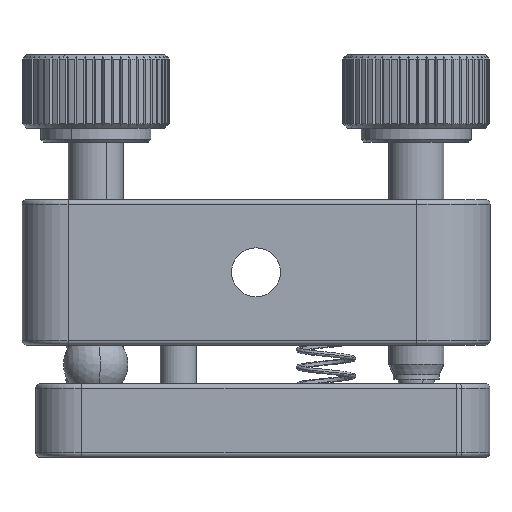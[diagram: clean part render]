
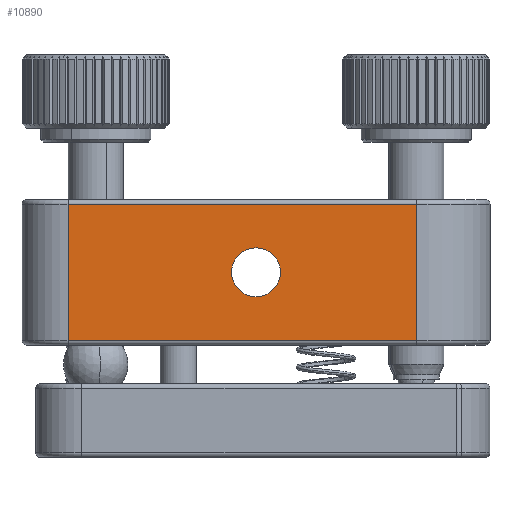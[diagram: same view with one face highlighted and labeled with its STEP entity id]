
A CAD part, front view. The second image highlights one B-rep face of the part: STEP entity #10890.
In plain terms, the highlighted planar face has unit normal (0, -1, 0).
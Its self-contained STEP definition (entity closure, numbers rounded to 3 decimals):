
#459 = LINE ( 'NONE', #11049, #16181 ) ;
#684 = DIRECTION ( 'NONE',  ( 0., -1., 0. ) ) ;
#821 = VECTOR ( 'NONE', #5038, 1000. ) ;
#1578 = CARTESIAN_POINT ( 'NONE',  ( 36.252, 27.866, -43.489 ) ) ;
#2243 = AXIS2_PLACEMENT_3D ( 'NONE', #24503, #684, #11282 ) ;
#3144 = VERTEX_POINT ( 'NONE', #32669 ) ;
#5038 = DIRECTION ( 'NONE',  ( -1., 0., 0. ) ) ;
#5469 = LINE ( 'NONE', #16045, #28557 ) ;
#5758 = CARTESIAN_POINT ( 'NONE',  ( 36.252, 27.866, -58.289 ) ) ;
#6248 = CARTESIAN_POINT ( 'NONE',  ( 74.052, 27.866, -58.289 ) ) ;
#6724 = CARTESIAN_POINT ( 'NONE',  ( 74.052, 27.866, -43.489 ) ) ;
#6799 = DIRECTION ( 'NONE',  ( 0., 1., 0. ) ) ;
#7294 = VERTEX_POINT ( 'NONE', #5758 ) ;
#8831 = DIRECTION ( 'NONE',  ( 0., -1., 0. ) ) ;
#9339 = VECTOR ( 'NONE', #16850, 1000. ) ;
#9399 = FACE_OUTER_BOUND ( 'NONE', #20662, .T. ) ;
#10242 = LINE ( 'NONE', #28859, #821 ) ;
#10347 = EDGE_CURVE ( 'NONE', #17216, #3144, #459, .T. ) ;
#10354 = CARTESIAN_POINT ( 'NONE',  ( 54.002, 27.866, -50.889 ) ) ;
#10890 = ADVANCED_FACE ( 'NONE', ( #33235, #9399 ), #20011, .F. ) ;
#10909 = VERTEX_POINT ( 'NONE', #1578 ) ;
#11049 = CARTESIAN_POINT ( 'NONE',  ( 74.052, 27.866, -42.989 ) ) ;
#11282 = DIRECTION ( 'NONE',  ( 1., 0., 0. ) ) ;
#11581 = ORIENTED_EDGE ( 'NONE', *, *, #15387, .T. ) ;
#13578 = CIRCLE ( 'NONE', #33050, 2.65 ) ;
#15387 = EDGE_CURVE ( 'NONE', #7294, #3144, #30065, .T. ) ;
#16029 = ORIENTED_EDGE ( 'NONE', *, *, #10347, .F. ) ;
#16045 = CARTESIAN_POINT ( 'NONE',  ( 36.252, 27.866, -42.989 ) ) ;
#16181 = VECTOR ( 'NONE', #21670, 1000. ) ;
#16618 = EDGE_CURVE ( 'NONE', #19010, #23185, #32217, .T. ) ;
#16850 = DIRECTION ( 'NONE',  ( 1., 0., 0. ) ) ;
#17216 = VERTEX_POINT ( 'NONE', #6724 ) ;
#17398 = DIRECTION ( 'NONE',  ( -1., 0., 0. ) ) ;
#19010 = VERTEX_POINT ( 'NONE', #10354 ) ;
#19446 = DIRECTION ( 'NONE',  ( 1., 0., 0. ) ) ;
#19605 = ORIENTED_EDGE ( 'NONE', *, *, #32175, .T. ) ;
#20011 = PLANE ( 'NONE',  #34015 ) ;
#20025 = ORIENTED_EDGE ( 'NONE', *, *, #16618, .F. ) ;
#20662 = EDGE_LOOP ( 'NONE', ( #19605, #11581, #16029, #26783 ) ) ;
#21670 = DIRECTION ( 'NONE',  ( 0., 0., -1. ) ) ;
#23185 = VERTEX_POINT ( 'NONE', #24910 ) ;
#24503 = CARTESIAN_POINT ( 'NONE',  ( 56.652, 27.866, -50.889 ) ) ;
#24910 = CARTESIAN_POINT ( 'NONE',  ( 59.302, 27.866, -50.889 ) ) ;
#26669 = DIRECTION ( 'NONE',  ( 0., 0., -1. ) ) ;
#26783 = ORIENTED_EDGE ( 'NONE', *, *, #29579, .T. ) ;
#28557 = VECTOR ( 'NONE', #26669, 1000. ) ;
#28859 = CARTESIAN_POINT ( 'NONE',  ( 36.252, 27.866, -43.489 ) ) ;
#29008 = ORIENTED_EDGE ( 'NONE', *, *, #29797, .F. ) ;
#29579 = EDGE_CURVE ( 'NONE', #17216, #10909, #10242, .T. ) ;
#29797 = EDGE_CURVE ( 'NONE', #23185, #19010, #13578, .T. ) ;
#30065 = LINE ( 'NONE', #6248, #9339 ) ;
#30609 = CARTESIAN_POINT ( 'NONE',  ( 74.052, 27.866, -42.989 ) ) ;
#32175 = EDGE_CURVE ( 'NONE', #10909, #7294, #5469, .T. ) ;
#32217 = CIRCLE ( 'NONE', #2243, 2.65 ) ;
#32455 = EDGE_LOOP ( 'NONE', ( #29008, #20025 ) ) ;
#32663 = CARTESIAN_POINT ( 'NONE',  ( 56.652, 27.866, -50.889 ) ) ;
#32669 = CARTESIAN_POINT ( 'NONE',  ( 74.052, 27.866, -58.289 ) ) ;
#33050 = AXIS2_PLACEMENT_3D ( 'NONE', #32663, #8831, #19446 ) ;
#33235 = FACE_BOUND ( 'NONE', #32455, .T. ) ;
#34015 = AXIS2_PLACEMENT_3D ( 'NONE', #30609, #6799, #17398 ) ;
